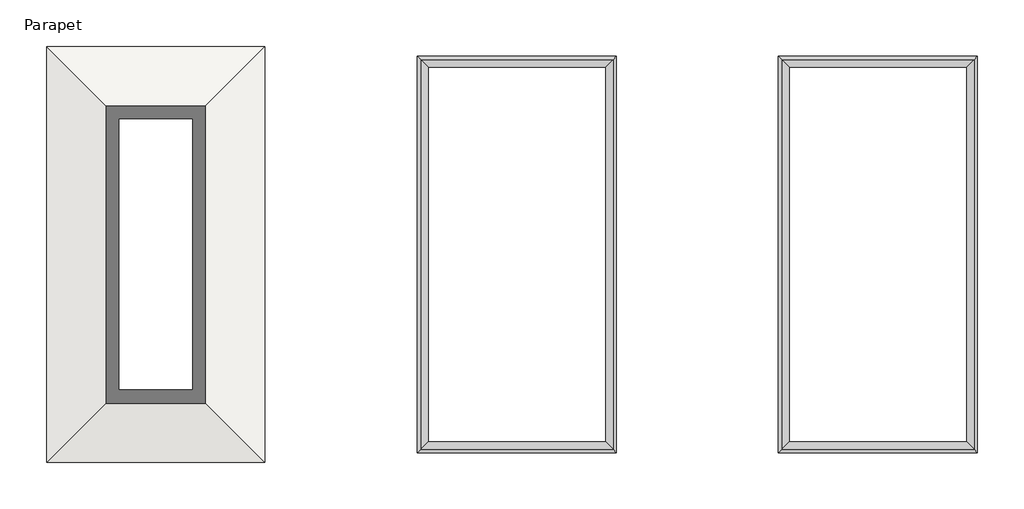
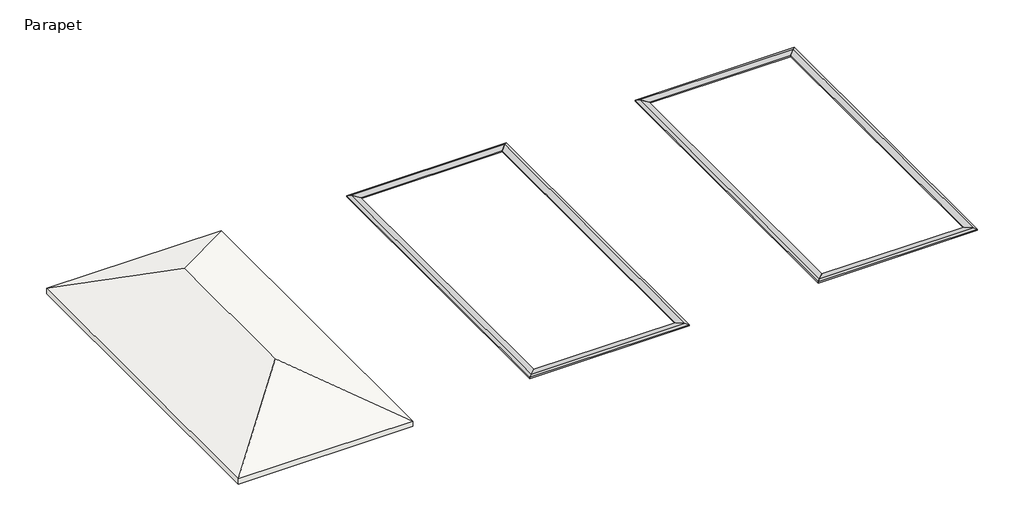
# One storey: 8 proxies, 1 roof.
"""IFC4 building model written with IfcOpenShell, lengths in millimetres."""

import ifcopenshell
import ifcopenshell.guid

model = None  # the IFC model being written
_history = None  # IfcOwnerHistory: only IFC2X3 demands one
_inside = {}  # id of a spatial element -> (the spatial element, [elements in it])
_under = {}  # id of a project, library or spatial element -> (it, [spatial elements below it])
_declared = {}  # id of a project -> (the project, [libraries it declares])
_typed = {}  # id of a type object -> (the type object, [elements of that type])
_made_of = {}  # id of a material, layer set ... -> (it, [elements and type objects made of it])


def new_model(schema):
    """Start an empty IFC model of exactly this schema.

    Asked for "IFC4X3", IfcOpenShell would pick the latest addendum, in which some entities
    have other attributes; the version numbers below select the first issue.
    IFC2X3 requires an IfcOwnerHistory on every rooted entity: one is made here for all.
    """
    global model, _history
    if schema == "IFC4X3":
        model = ifcopenshell.file(schema_version=(4, 3, 0, 0))
    else:
        model = ifcopenshell.file(schema=schema)
    _inside.clear()
    _under.clear()
    _declared.clear()
    _typed.clear()
    _made_of.clear()
    _history = None
    if model.schema == "IFC2X3":
        org = make("IfcOrganization", Name="unknown")
        user = make(
            "IfcPersonAndOrganization",
            ThePerson=make("IfcPerson", FamilyName="unknown"),
            TheOrganization=org,
        )
        app = make(
            "IfcApplication",
            ApplicationDeveloper=org,
            Version="unknown",
            ApplicationFullName="unknown",
            ApplicationIdentifier="unknown",
        )
        _history = make(
            "IfcOwnerHistory",
            OwningUser=user,
            OwningApplication=app,
            ChangeAction="ADDED",
            CreationDate=0,
        )
    return model


def make(cls, **values):
    """One entity of the class cls with the attributes given. An attribute that is None is left unset."""
    return model.create_entity(
        cls, **{name: value for name, value in values.items() if value is not None}
    )


def rooted(cls, **values):
    """An entity with a GlobalId (a new one), such as an element, a storey or a relation."""
    return make(cls, GlobalId=ifcopenshell.guid.new(), OwnerHistory=_history, **values)


def si_unit(unit_type, name, prefix=None):
    """IfcSIUnit, for example si_unit("LENGTHUNIT", "METRE", prefix="MILLI")."""
    return make("IfcSIUnit", UnitType=unit_type, Prefix=prefix, Name=name)


def assignment(units):
    """IfcUnitAssignment: the units of a project."""
    return None if units is None else make("IfcUnitAssignment", Units=units)


def point(xyz):
    """IfcCartesianPoint."""
    return None if xyz is None else make("IfcCartesianPoint", Coordinates=xyz)


def direction(xyz):
    """IfcDirection."""
    return None if xyz is None else make("IfcDirection", DirectionRatios=xyz)


def frame(location, z_axis=None, x_axis=None):
    """IfcAxis2Placement3D, a coordinate frame: its origin and axes. An axis left out is left unset."""
    return make(
        "IfcAxis2Placement3D",
        Location=point(location),
        Axis=direction(z_axis),
        RefDirection=direction(x_axis),
    )


def origin():
    """The frame at (0, 0, 0) with its axes left unset."""
    return frame((0.0, 0.0, 0.0))


def place(relative_to, where):
    """IfcLocalPlacement: puts the frame where relative to a parent placement (None: the world)."""
    return make(
        "IfcLocalPlacement", PlacementRelTo=relative_to, RelativePlacement=where
    )


def context(
    kind, dimensions, precision=None, world=None, true_north=None, identifier=None
):
    """IfcGeometricRepresentationContext, for example the 3D "Model" context."""
    return make(
        "IfcGeometricRepresentationContext",
        ContextIdentifier=identifier,
        ContextType=kind,
        CoordinateSpaceDimension=dimensions,
        Precision=precision,
        WorldCoordinateSystem=world,
        TrueNorth=true_north,
    )


def project(units=None, contexts=None):
    """IfcProject with its units and contexts."""
    return rooted(
        "IfcProject",
        Name="project",
        RepresentationContexts=contexts,
        UnitsInContext=assignment(units),
    )


def spatial(cls, under=None, at=None, **own):
    """A site, building, storey or space (cls), placed at a placement, below another one or the project."""
    s = rooted(cls, ObjectPlacement=at, **own)
    if under is not None:
        _under.setdefault(under.id(), (under, []))[1].append(s)
    return s


def faces_of(points, faces, orient=None, outer=None):
    """IfcFace entities. A face is a list of loops; a loop is a list of indices into points, from 0.

    orient and outer hold one flag for each loop. By default every Orientation is true, the
    first loop of a face is its IfcFaceOuterBound and the others are IfcFaceBound.
    """
    made = []
    for i, loops in enumerate(faces):
        bounds = []
        for j, loop in enumerate(loops):
            is_outer = j == 0 if outer is None else outer[i][j]
            bounds.append(
                make(
                    "IfcFaceOuterBound" if is_outer else "IfcFaceBound",
                    Bound=make("IfcPolyLoop", Polygon=[points[k] for k in loop]),
                    Orientation=True if orient is None else orient[i][j],
                )
            )
        made.append(make("IfcFace", Bounds=bounds))
    return made


def faceted_brep(points, faces, orient=None, outer=None, voids=None):
    """IfcFacetedBrep: a solid bounded by flat faces; with voids (closed shells), ...WithVoids."""
    shared = [point(p) for p in points]
    hull = make("IfcClosedShell", CfsFaces=faces_of(shared, faces, orient, outer))
    if voids is None:
        return make("IfcFacetedBrep", Outer=hull)
    return make(
        "IfcFacetedBrepWithVoids",
        Outer=hull,
        Voids=[
            make(cls, CfsFaces=faces_of(shared, fs, o, b)) for cls, fs, o, b in voids
        ],
    )


def shape(context_of_items, identifier, shape_type, items):
    """IfcShapeRepresentation: the items that make up one representation, for example the "Body"."""
    return make(
        "IfcShapeRepresentation",
        ContextOfItems=context_of_items,
        RepresentationIdentifier=identifier,
        RepresentationType=shape_type,
        Items=items,
    )


def made_of(thing, what):
    """Note that an element or type object is made of a material, layer set ...; save() writes the relation."""
    if what is not None:
        _made_of.setdefault(what.id(), (what, []))[1].append(thing)
    return thing


def element(
    cls,
    number,
    at=None,
    inside=None,
    cuts=None,
    type_object=None,
    material=None,
    context=None,
    identifier="Body",
    shape_type=None,
    held_by="IfcProductDefinitionShape",
    body=None,
    shapes=None,
    **own,
):
    """One element of the class cls, such as IfcWall. Its Tag is "e" and its number.

    at: its placement. inside: the storey or other place that contains it. cuts: it is an
    opening in that element (IfcRelVoidsElement). A single representation is given by context,
    identifier, shape_type and body (its items); several are given by shapes. held_by: the class
    of the entity that holds the representations. save() writes the other relations.
    """
    e = rooted(cls, Tag="e%d" % number, ObjectPlacement=at, **own)
    if body is not None:
        shapes = [shape(context, identifier, shape_type, body)]
    if shapes is not None:
        e.Representation = make(held_by, Representations=shapes)
    if inside is not None:
        _inside.setdefault(inside.id(), (inside, []))[1].append(e)
    if cuts is not None:
        rooted(
            "IfcRelVoidsElement", RelatingBuildingElement=cuts, RelatedOpeningElement=e
        )
    if type_object is not None:
        _typed.setdefault(type_object.id(), (type_object, []))[1].append(e)
    return made_of(e, material)


def aggregate(whole, parts):
    """IfcRelAggregates: a whole, such as a stair, and the parts it consists of."""
    return rooted("IfcRelAggregates", RelatingObject=whole, RelatedObjects=parts)


def save(model, path):
    """Write the relations noted so far, then the file.

    IfcRelAggregates (storeys below a building ...), IfcRelContainedInSpatialStructure (elements
    in a storey), IfcRelDefinesByType, IfcRelAssociatesMaterial and IfcRelDeclares: one each for
    every whole, place, type object, material and project.
    """
    for whole, parts in _under.values():
        aggregate(whole, parts)
    for where, things in _inside.values():
        rooted(
            "IfcRelContainedInSpatialStructure",
            RelatedElements=things,
            RelatingStructure=where,
        )
    for kind, things in _typed.values():
        rooted("IfcRelDefinesByType", RelatedObjects=things, RelatingType=kind)
    for what, things in _made_of.values():
        rooted("IfcRelAssociatesMaterial", RelatedObjects=things, RelatingMaterial=what)
    for by, libraries in _declared.values():
        rooted("IfcRelDeclares", RelatingContext=by, RelatedDefinitions=libraries)
    model.write(path)


model = new_model("IFC4")

# Units and contexts
model_context = context("Model", 3, world=origin())
ifc_project = project(units=[si_unit("LENGTHUNIT", "METRE", prefix="MILLI")], contexts=[model_context])

# Site, building, storey
site = spatial("IfcSite", under=ifc_project)
building = spatial("IfcBuilding", under=site)
storey = spatial("IfcBuildingStorey", under=building, Name="Parapet", Elevation=4650.0)

# Proxies
placement = place(None, origin())
element("IfcBuildingElementProxy", 1, Name="Wall Sweeps", at=placement, inside=storey, context=model_context, shape_type="Brep", body=[
    faceted_brep([(18757.4555911, -3969.6148477, 4713.5), (18757.4555911, -3969.6148477, 4650.0), (19163.8555911, -4376.0148477, 4650.0), (19163.8555911, -4376.0148477, 4713.5), (19036.8555911, -4249.0148477, 4751.6), (18757.4555911, 9962.2851523, 4713.5), (19036.8555911, 10241.6851523, 4751.6), (19163.8555911, 10368.6851523, 4713.5), (19163.8555911, 10368.6851523, 4650.0), (18757.4555911, 9962.2851523, 4650.0)], [[[0, 1, 2, 3, 4]], [[5, 6, 7, 8, 9]], [[1, 0, 5, 9]], [[2, 1, 9, 8]], [[3, 2, 8, 7]], [[4, 3, 7, 6]], [[0, 4, 6, 5]]]),
])
element("IfcBuildingElementProxy", 2, Name="Wall Sweeps", at=placement, inside=storey, context=model_context, shape_type="Brep", body=[
    faceted_brep([(18757.4555911, 9962.2851523, 4713.5), (18757.4555911, 9962.2851523, 4650.0), (19163.8555911, 10368.6851523, 4650.0), (19163.8555911, 10368.6851523, 4713.5), (19036.8555911, 10241.6851523, 4751.6), (12166.1555911, 9962.2851523, 4713.5), (11886.7555911, 10241.6851523, 4751.6), (11759.7555911, 10368.6851523, 4713.5), (11759.7555911, 10368.6851523, 4650.0), (12166.1555911, 9962.2851523, 4650.0)], [[[0, 1, 2, 3, 4]], [[5, 6, 7, 8, 9]], [[1, 0, 5, 9]], [[2, 1, 9, 8]], [[3, 2, 8, 7]], [[4, 3, 7, 6]], [[0, 4, 6, 5]]]),
])
element("IfcBuildingElementProxy", 3, Name="Wall Sweeps", at=placement, inside=storey, context=model_context, shape_type="Brep", body=[
    faceted_brep([(18757.4555911, -3969.6148477, 4713.5), (19036.8555911, -4249.0148477, 4751.6), (19163.8555911, -4376.0148477, 4713.5), (19163.8555911, -4376.0148477, 4650.0), (18757.4555911, -3969.6148477, 4650.0), (12166.1555911, -3969.6148477, 4713.5), (12166.1555911, -3969.6148477, 4650.0), (11759.7555911, -4376.0148477, 4650.0), (11759.7555911, -4376.0148477, 4713.5), (11886.7555911, -4249.0148477, 4751.6)], [[[0, 1, 2, 3, 4]], [[5, 6, 7, 8, 9]], [[1, 0, 5, 9]], [[2, 1, 9, 8]], [[3, 2, 8, 7]], [[4, 3, 7, 6]], [[0, 4, 6, 5]]]),
])
element("IfcBuildingElementProxy", 4, Name="Wall Sweeps", at=placement, inside=storey, context=model_context, shape_type="Brep", body=[
    faceted_brep([(12166.1555911, -3969.6148477, 4713.5), (11886.7555911, -4249.0148477, 4751.6), (11759.7555911, -4376.0148477, 4713.5), (11759.7555911, -4376.0148477, 4650.0), (12166.1555911, -3969.6148477, 4650.0), (12166.1555911, 9962.2851523, 4713.5), (12166.1555911, 9962.2851523, 4650.0), (11759.7555911, 10368.6851523, 4650.0), (11759.7555911, 10368.6851523, 4713.5), (11886.7555911, 10241.6851523, 4751.6)], [[[0, 1, 2, 3, 4]], [[5, 6, 7, 8, 9]], [[1, 0, 5, 9]], [[2, 1, 9, 8]], [[3, 2, 8, 7]], [[4, 3, 7, 6]], [[0, 4, 6, 5]]]),
])
element("IfcBuildingElementProxy", 5, Name="Wall Sweeps", at=placement, inside=storey, context=model_context, shape_type="Brep", body=[
    faceted_brep([(32168.6555911, -3969.6148477, 4713.5), (32168.6555911, -3969.6148477, 4650.0), (32575.0555911, -4376.0148477, 4650.0), (32575.0555911, -4376.0148477, 4713.5), (32448.0555911, -4249.0148477, 4751.6), (32168.6555911, 9962.2851523, 4713.5), (32448.0555911, 10241.6851523, 4751.6), (32575.0555911, 10368.6851523, 4713.5), (32575.0555911, 10368.6851523, 4650.0), (32168.6555911, 9962.2851523, 4650.0)], [[[0, 1, 2, 3, 4]], [[5, 6, 7, 8, 9]], [[1, 0, 5, 9]], [[2, 1, 9, 8]], [[3, 2, 8, 7]], [[4, 3, 7, 6]], [[0, 4, 6, 5]]]),
])
element("IfcBuildingElementProxy", 6, Name="Wall Sweeps", at=placement, inside=storey, context=model_context, shape_type="Brep", body=[
    faceted_brep([(32168.6555911, 9962.2851523, 4713.5), (32168.6555911, 9962.2851523, 4650.0), (32575.0555911, 10368.6851523, 4650.0), (32575.0555911, 10368.6851523, 4713.5), (32448.0555911, 10241.6851523, 4751.6), (25577.3555911, 9962.2851523, 4713.5), (25297.9555911, 10241.6851523, 4751.6), (25170.9555911, 10368.6851523, 4713.5), (25170.9555911, 10368.6851523, 4650.0), (25577.3555911, 9962.2851523, 4650.0)], [[[0, 1, 2, 3, 4]], [[5, 6, 7, 8, 9]], [[1, 0, 5, 9]], [[2, 1, 9, 8]], [[3, 2, 8, 7]], [[4, 3, 7, 6]], [[0, 4, 6, 5]]]),
])
element("IfcBuildingElementProxy", 7, Name="Wall Sweeps", at=placement, inside=storey, context=model_context, shape_type="Brep", body=[
    faceted_brep([(32168.6555911, -3969.6148477, 4713.5), (32448.0555911, -4249.0148477, 4751.6), (32575.0555911, -4376.0148477, 4713.5), (32575.0555911, -4376.0148477, 4650.0), (32168.6555911, -3969.6148477, 4650.0), (25577.3555911, -3969.6148477, 4713.5), (25577.3555911, -3969.6148477, 4650.0), (25170.9555911, -4376.0148477, 4650.0), (25170.9555911, -4376.0148477, 4713.5), (25297.9555911, -4249.0148477, 4751.6)], [[[0, 1, 2, 3, 4]], [[5, 6, 7, 8, 9]], [[1, 0, 5, 9]], [[2, 1, 9, 8]], [[3, 2, 8, 7]], [[4, 3, 7, 6]], [[0, 4, 6, 5]]]),
])
element("IfcBuildingElementProxy", 8, Name="Wall Sweeps", at=placement, inside=storey, context=model_context, shape_type="Brep", body=[
    faceted_brep([(25577.3555911, -3969.6148477, 4713.5), (25297.9555911, -4249.0148477, 4751.6), (25170.9555911, -4376.0148477, 4713.5), (25170.9555911, -4376.0148477, 4650.0), (25577.3555911, -3969.6148477, 4650.0), (25577.3555911, 9962.2851523, 4713.5), (25577.3555911, 9962.2851523, 4650.0), (25170.9555911, 10368.6851523, 4650.0), (25170.9555911, 10368.6851523, 4713.5), (25297.9555911, 10241.6851523, 4751.6)], [[[0, 1, 2, 3, 4]], [[5, 6, 7, 8, 9]], [[1, 0, 5, 9]], [[2, 1, 9, 8]], [[3, 2, 8, 7]], [[4, 3, 7, 6]], [[0, 4, 6, 5]]]),
])

# Roof
element("IfcRoof", 9, ObjectType="Generic - 9\"", at=placement, inside=storey, context=model_context, shape_type="Brep", body=[
    faceted_brep([(2050.6055911, 6666.6351523, 6526.425), (6108.2555911, 10724.2851523, 4497.6), (6108.2555911, -4731.6148477, 4497.6), (2050.6055911, -673.9648477, 6526.425), (-2007.0444089, 10724.2851523, 4497.6), (-2007.0444089, -4731.6148477, 4497.6), (6108.2555911, 10724.2851523, 4753.1825698), (2050.6055911, 6666.6351523, 6782.0075698), (2050.6055911, -673.9648477, 6782.0075698), (6108.2555911, -4731.6148477, 4753.1825698), (-2007.0444089, 10724.2851523, 4753.1825698), (-2007.0444089, -4731.6148477, 4753.1825698)], [[[0, 1, 2, 3]], [[1, 0, 4]], [[5, 3, 2]], [[4, 0, 3, 5]], [[6, 7, 8, 9]], [[6, 10, 7]], [[11, 9, 8]], [[10, 11, 8, 7]], [[4, 10, 6, 1]], [[5, 11, 10, 4]], [[2, 9, 11, 5]], [[1, 6, 9, 2]]]),
])

save(model, "model.ifc")
